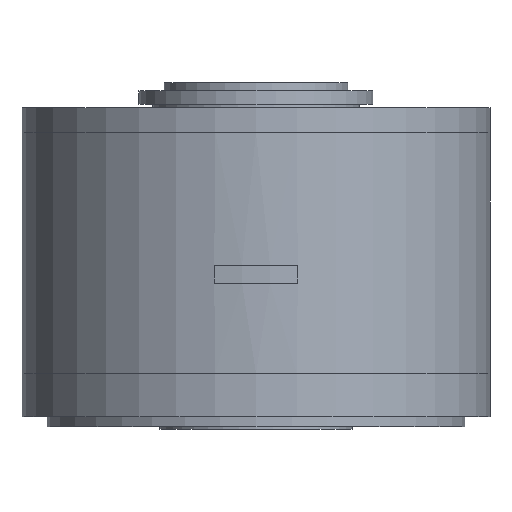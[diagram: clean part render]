
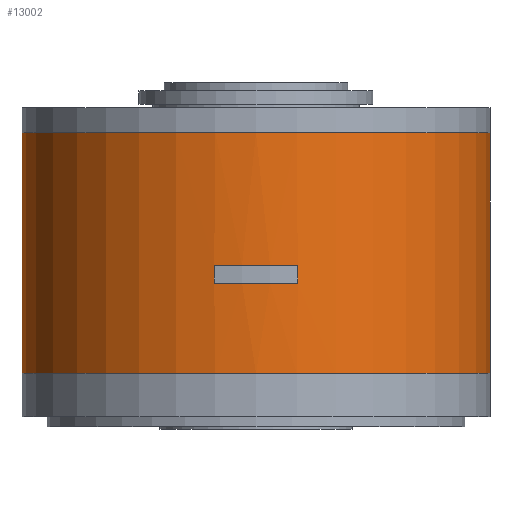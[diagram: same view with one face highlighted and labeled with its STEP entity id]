
A CAD part, front view. The second image highlights one B-rep face of the part: STEP entity #13002.
In plain terms, the highlighted cylindrical face has radius 140 mm (diameter 280 mm), a partial arc.
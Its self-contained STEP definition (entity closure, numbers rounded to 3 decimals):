
#2035 = CARTESIAN_POINT ( 'NONE',  ( -140., 0., 0. ) ) ;
#2038 = DIRECTION ( 'NONE',  ( 0., 0., 1. ) ) ;
#2188 = EDGE_LOOP ( 'NONE', ( #13217, #13211, #13210, #13215 ) ) ;
#3030 = CARTESIAN_POINT ( 'NONE',  ( -25., -137.75, -105. ) ) ;
#3142 = CARTESIAN_POINT ( 'NONE',  ( -140., 0., -158.9 ) ) ;
#3201 = CARTESIAN_POINT ( 'NONE',  ( -25., -137.75, -94.5 ) ) ;
#3217 = CARTESIAN_POINT ( 'NONE',  ( 25., -137.75, -105. ) ) ;
#3529 = CARTESIAN_POINT ( 'NONE',  ( 140., 0., -15.1 ) ) ;
#3608 = CARTESIAN_POINT ( 'NONE',  ( 25., -137.75, -94.5 ) ) ;
#3741 = CARTESIAN_POINT ( 'NONE',  ( -140., 0., -15.1 ) ) ;
#3746 = CARTESIAN_POINT ( 'NONE',  ( 140., 0., -158.9 ) ) ;
#5952 = EDGE_CURVE ( 'NONE', #8926, #8942, #10734, .T. ) ;
#5956 = EDGE_CURVE ( 'NONE', #8344, #8657, #10750, .T. ) ;
#5960 = EDGE_CURVE ( 'NONE', #8929, #8926, #10754, .T. ) ;
#5976 = EDGE_CURVE ( 'NONE', #8338, #8684, #10773, .T. ) ;
#6000 = EDGE_CURVE ( 'NONE', #8911, #8929, #10799, .T. ) ;
#6087 = EDGE_CURVE ( 'NONE', #8942, #8911, #9967, .T. ) ;
#6222 = EDGE_CURVE ( 'NONE', #8338, #8657, #10149, .T. ) ;
#6524 = EDGE_LOOP ( 'NONE', ( #13199, #13218, #13227, #13212 ) ) ;
#6656 = DIRECTION ( 'NONE',  ( 0., 0., 1. ) ) ;
#6773 = DIRECTION ( 'NONE',  ( 1., 0., 0. ) ) ;
#6789 = CARTESIAN_POINT ( 'NONE',  ( 0., 0., 0. ) ) ;
#7890 = VECTOR ( 'NONE', #2038, 1000. ) ;
#7892 = LINE ( 'NONE', #2035, #7890 ) ;
#8338 = VERTEX_POINT ( 'NONE', #3746 ) ;
#8344 = VERTEX_POINT ( 'NONE', #3741 ) ;
#8657 = VERTEX_POINT ( 'NONE', #3529 ) ;
#8684 = VERTEX_POINT ( 'NONE', #3142 ) ;
#8911 = VERTEX_POINT ( 'NONE', #3217 ) ;
#8926 = VERTEX_POINT ( 'NONE', #3201 ) ;
#8929 = VERTEX_POINT ( 'NONE', #3608 ) ;
#8942 = VERTEX_POINT ( 'NONE', #3030 ) ;
#9967 = CIRCLE ( 'NONE', #11339, 140. ) ;
#10146 = VECTOR ( 'NONE', #13448, 1000. ) ;
#10149 = LINE ( 'NONE', #13447, #10146 ) ;
#10717 = VECTOR ( 'NONE', #13371, 1000. ) ;
#10734 = LINE ( 'NONE', #13338, #10717 ) ;
#10750 = CIRCLE ( 'NONE', #11421, 140. ) ;
#10754 = CIRCLE ( 'NONE', #11419, 140. ) ;
#10773 = CIRCLE ( 'NONE', #11410, 140. ) ;
#10799 = LINE ( 'NONE', #13570, #10802 ) ;
#10802 = VECTOR ( 'NONE', #13569, 1000. ) ;
#10965 = AXIS2_PLACEMENT_3D ( 'NONE', #6789, #6656, #6773 ) ;
#11286 = EDGE_CURVE ( 'NONE', #8684, #8344, #7892, .T. ) ;
#11339 = AXIS2_PLACEMENT_3D ( 'NONE', #13817, #13808, #13809 ) ;
#11410 = AXIS2_PLACEMENT_3D ( 'NONE', #13285, #13300, #13299 ) ;
#11419 = AXIS2_PLACEMENT_3D ( 'NONE', #13376, #13347, #13346 ) ;
#11421 = AXIS2_PLACEMENT_3D ( 'NONE', #13374, #13361, #13360 ) ;
#13002 = ADVANCED_FACE ( 'NONE', ( #14983, #14982 ), #14984, .T. ) ;
#13199 = ORIENTED_EDGE ( 'NONE', *, *, #11286, .F. ) ;
#13210 = ORIENTED_EDGE ( 'NONE', *, *, #6087, .F. ) ;
#13211 = ORIENTED_EDGE ( 'NONE', *, *, #6000, .F. ) ;
#13212 = ORIENTED_EDGE ( 'NONE', *, *, #5956, .F. ) ;
#13215 = ORIENTED_EDGE ( 'NONE', *, *, #5952, .F. ) ;
#13217 = ORIENTED_EDGE ( 'NONE', *, *, #5960, .F. ) ;
#13218 = ORIENTED_EDGE ( 'NONE', *, *, #5976, .F. ) ;
#13227 = ORIENTED_EDGE ( 'NONE', *, *, #6222, .T. ) ;
#13285 = CARTESIAN_POINT ( 'NONE',  ( 0., 0., -158.9 ) ) ;
#13299 = DIRECTION ( 'NONE',  ( -1., 0., 0. ) ) ;
#13300 = DIRECTION ( 'NONE',  ( 0., 0., -1. ) ) ;
#13338 = CARTESIAN_POINT ( 'NONE',  ( -25., -137.75, 0. ) ) ;
#13346 = DIRECTION ( 'NONE',  ( -1., 0., 0. ) ) ;
#13347 = DIRECTION ( 'NONE',  ( 0., 0., -1. ) ) ;
#13360 = DIRECTION ( 'NONE',  ( 1., 0., 0. ) ) ;
#13361 = DIRECTION ( 'NONE',  ( 0., 0., 1. ) ) ;
#13371 = DIRECTION ( 'NONE',  ( 0., 0., -1. ) ) ;
#13374 = CARTESIAN_POINT ( 'NONE',  ( 0., 0., -15.1 ) ) ;
#13376 = CARTESIAN_POINT ( 'NONE',  ( 0., 0., -94.5 ) ) ;
#13447 = CARTESIAN_POINT ( 'NONE',  ( 140., 0., 0. ) ) ;
#13448 = DIRECTION ( 'NONE',  ( 0., 0., 1. ) ) ;
#13569 = DIRECTION ( 'NONE',  ( 0., 0., 1. ) ) ;
#13570 = CARTESIAN_POINT ( 'NONE',  ( 25., -137.75, 0. ) ) ;
#13808 = DIRECTION ( 'NONE',  ( 0., 0., 1. ) ) ;
#13809 = DIRECTION ( 'NONE',  ( 1., 0., 0. ) ) ;
#13817 = CARTESIAN_POINT ( 'NONE',  ( 0., 0., -105. ) ) ;
#14982 = FACE_BOUND ( 'NONE', #2188, .T. ) ;
#14983 = FACE_OUTER_BOUND ( 'NONE', #6524, .T. ) ;
#14984 = CYLINDRICAL_SURFACE ( 'NONE', #10965, 140. ) ;
